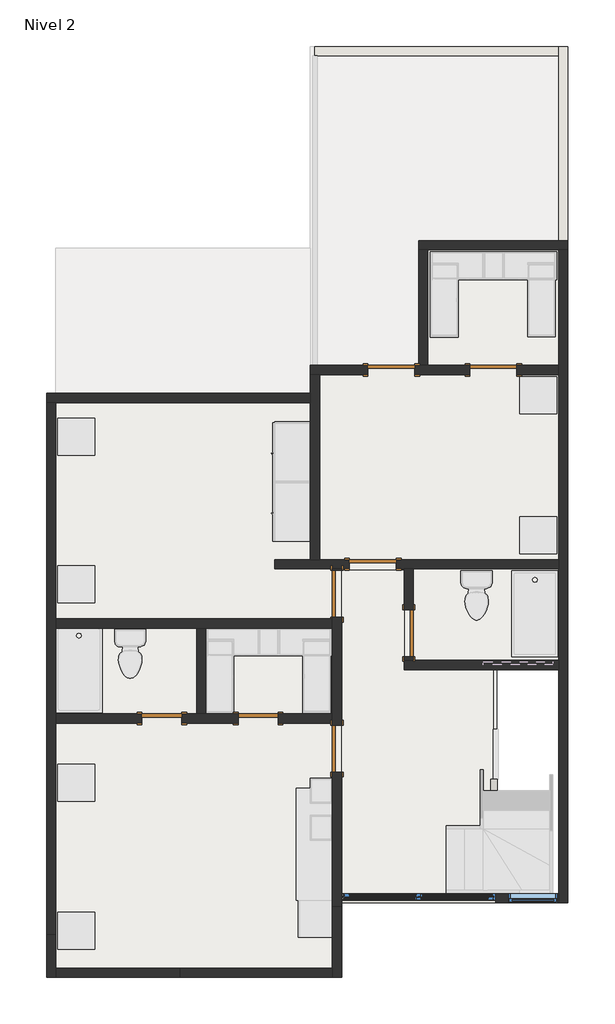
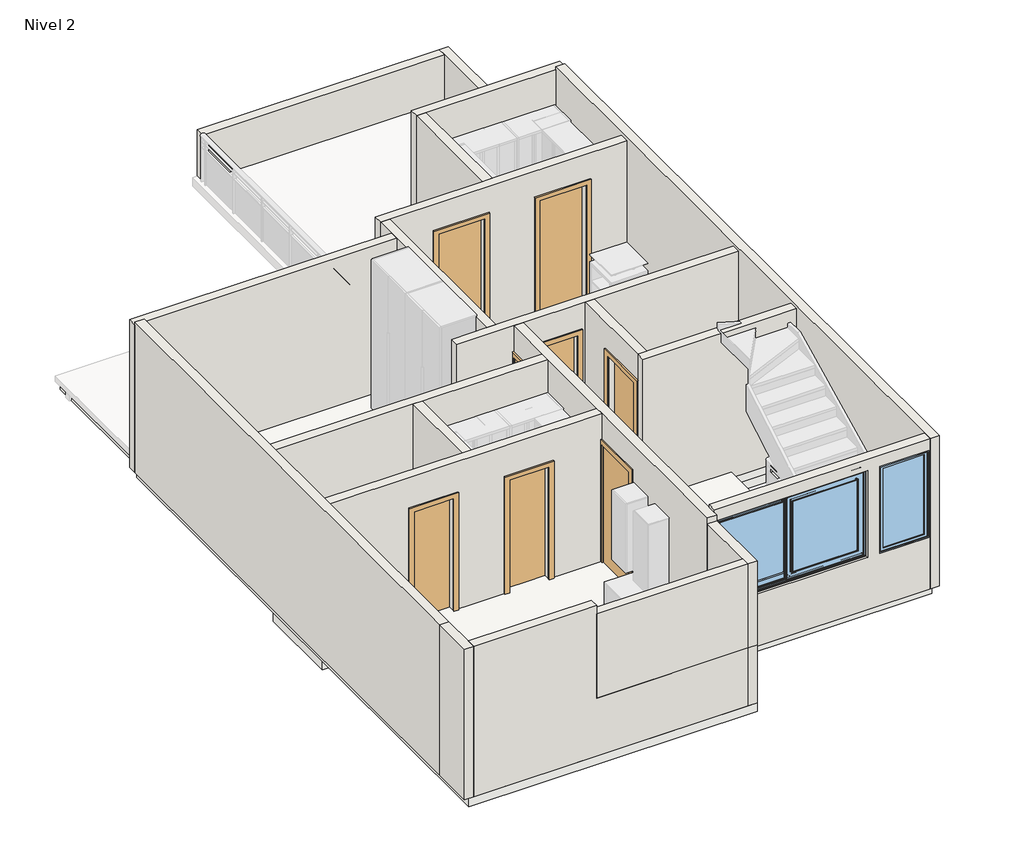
# One storey, part 1 of 2: 22 walls, 8 doors, 6 slabs, 2 windows.
"""IFC4 building model written with IfcOpenShell, lengths in millimetres."""

from ifc_helpers import new_model, si_unit, frame, origin, place, context, project, spatial, polyline, outline, extrude, faceted_brep, transform, mapped, element, save
from components import m_simple_a_ras_63_ancho_e79645bf, m_simple_a_ras_0762_x_2032mm_3f592dcc, m_simple_a_ras_0762_x_2032mm_ffa3ef71, window_2_5_x_1_5_7387efda, window_2_5_x_1_5_7a9b2e37, window_2_5_x_1_5_f0680f54, m_fijo_8_x_1_5_414f3f9b

model = new_model("IFC4")

# Units and contexts
model_context = context("Model", 3, world=origin())
ifc_project = project(units=[si_unit("LENGTHUNIT", "METRE", prefix="MILLI")], contexts=[model_context])

# Site, building, storey
site = spatial("IfcSite", under=ifc_project)
building = spatial("IfcBuilding", under=site)
storey = spatial("IfcBuildingStorey", under=building, Name="Nivel 2", Elevation=2800.0)

# Doors
placement = place(None, origin())
m_simple_a_ras_63_ancho_shape = m_simple_a_ras_63_ancho_e79645bf(model_context)
element("IfcDoor", 1, ObjectType="M_Simple-A ras : .63 ancho", at=placement, inside=storey, context=model_context, shape_type="MappedRepresentation", body=[
    mapped(m_simple_a_ras_63_ancho_shape, transform((-6467.0352198, 2255.2742772, 2800.0), x_axis=(-1.0, 0.0, 0.0), y_axis=(0.0, -1.0, 0.0), z_axis=(0.0, 0.0, 1.0))),
])
element("IfcDoor", 2, ObjectType="M_Simple-A ras : .63 ancho", at=placement, inside=storey, context=model_context, shape_type="MappedRepresentation", body=[
    mapped(m_simple_a_ras_63_ancho_shape, transform((-8024.5352198, 2255.2742772, 2800.0), x_axis=(-1.0, 0.0, 0.0), y_axis=(0.0, -1.0, 0.0), z_axis=(0.0, 0.0, 1.0))),
])
m_simple_a_ras_0762_x_2032mm_shape = m_simple_a_ras_0762_x_2032mm_3f592dcc(model_context)
element("IfcDoor", 3, ObjectType="M_Simple-A ras : 0762 x 2032mm", at=placement, inside=storey, context=model_context, shape_type="MappedRepresentation", body=[
    mapped(m_simple_a_ras_0762_x_2032mm_shape, transform((-5189.5352198, 4275.2742772, 2800.0), x_axis=(0.0, 1.0, 0.0), y_axis=(-1.0, 0.0, 0.0), z_axis=(0.0, 0.0, 1.0))),
])
element("IfcDoor", 4, ObjectType="M_Simple-A ras : 0762 x 2032mm", at=placement, inside=storey, context=model_context, shape_type="MappedRepresentation", body=[
    mapped(m_simple_a_ras_0762_x_2032mm_shape, transform((-5189.5352198, 1767.2742772, 2800.0), x_axis=(0.0, 1.0, 0.0), y_axis=(-1.0, 0.0, 0.0), z_axis=(0.0, 0.0, 1.0))),
])
element("IfcDoor", 5, ObjectType="M_Simple-A ras : 0762 x 2032mm", at=placement, inside=storey, context=model_context, shape_type="MappedRepresentation", body=[
    mapped(m_simple_a_ras_0762_x_2032mm_shape, transform((-4307.5352198, 7905.2742772, 2800.0), x_axis=(1.0, 0.0, 0.0), y_axis=(0.0, 1.0, 0.0), z_axis=(0.0, 0.0, 1.0))),
])
element("IfcDoor", 6, ObjectType="M_Simple-A ras : 0762 x 2032mm", at=placement, inside=storey, context=model_context, shape_type="MappedRepresentation", body=[
    mapped(m_simple_a_ras_0762_x_2032mm_shape, transform((-2654.5352198, 7905.2742772, 2800.0), x_axis=(1.0, 0.0, 0.0), y_axis=(0.0, 1.0, 0.0), z_axis=(0.0, 0.0, 1.0))),
])
m_simple_a_ras_0762_x_2032mm_2_shape = m_simple_a_ras_0762_x_2032mm_ffa3ef71(model_context)
element("IfcDoor", 7, ObjectType="M_Simple-A ras : 0762 x 2032mm", at=placement, inside=storey, context=model_context, shape_type="MappedRepresentation", body=[
    mapped(m_simple_a_ras_0762_x_2032mm_2_shape, transform((-4607.0352198, 4755.2742772, 2800.0), x_axis=(-1.0, 0.0, 0.0), y_axis=(0.0, -1.0, 0.0), z_axis=(0.0, 0.0, 1.0))),
])
element("IfcDoor", 8, ObjectType="M_Simple-A ras : 0762 x 2032mm", at=placement, inside=storey, context=model_context, shape_type="MappedRepresentation", body=[
    mapped(m_simple_a_ras_0762_x_2032mm_shape, transform((-4024.5352198, 3639.2742772, 2800.0), x_axis=(0.0, -1.0, 0.0), y_axis=(1.0, 0.0, 0.0), z_axis=(0.0, 0.0, 1.0))),
])

# Slabs
element("IfcSlab", 9, ObjectType="Genérico 150 mm", at=placement, inside=storey, context=model_context, shape_type="SweptSolid", body=[
    extrude(outline(polyline([(-5114.5352198, -1939.7257228), (-9819.5352198, -1939.7257228), (-9819.5352198, 7448.2742772), (-5619.5352198, 7448.2742772), (-5619.5352198, 7980.2742772), (-3864.5352198, 7980.2742772), (-3864.5352198, 10000.2742772), (-1519.5352198, 10000.2742772), (-1519.5352198, -654.7257228), (-5114.5352198, -654.7257228), (-5114.5352198, -1939.7257228)]), holes=[polyline([(-1594.5352198, 3075.2742772), (-2594.5352198, 3075.2742772), (-2594.5352198, -579.7257228), (-1594.5352198, -579.7257228), (-1594.5352198, 3075.2742772)]), polyline([(-5112.0352198, 4655.2742772), (-5112.0352198, -579.7257228), (-3414.2417154, -579.7257228), (-2694.5352198, -579.7257228), (-2694.5352198, 1270.2742772), (-2655.7536895, 1270.2742772), (-2655.7536895, 3050.2742772), (-4099.5352198, 3050.2742772), (-4099.5352198, 4655.2742772), (-5112.0352198, 4655.2742772)]), polyline([(-7464.5352198, 3720.2742772), (-9744.5352198, 3720.2742772), (-9744.5352198, 2330.2742772), (-7464.5352198, 2330.2742772), (-7464.5352198, 3720.2742772)]), polyline([(-1594.5352198, 4680.2742772), (-3949.5352198, 4680.2742772), (-3949.5352198, 3200.2742772), (-1594.5352198, 3200.2742772), (-1594.5352198, 4680.2742772)])]), frame((0.0, 0.0, 2650.0), z_axis=(0.0, 0.0, 1.0), x_axis=(1.0, 0.0, 0.0)), (0.0, 0.0, 1.0), 150.0),
])
element("IfcSlab", 10, ObjectType="polines", at=placement, inside=storey, context=model_context, shape_type="SweptSolid", body=[
    extrude(outline(polyline([(-8208.0352198, 7523.2742772), (-8208.0352198, 9805.2742772), (-8138.0352198, 9805.2742772), (-8138.0352198, 7523.2742772), (-8208.0352198, 7523.2742772)])), frame((0.0, 0.0, 2700.0), z_axis=(0.0, 0.0, 1.0), x_axis=(1.0, 0.0, 0.0)), (0.0, 0.0, 1.0), 100.0),
])
element("IfcSlab", 11, ObjectType="polines", at=placement, inside=storey, context=model_context, shape_type="SweptSolid", body=[
    extrude(outline(polyline([(-9208.0352198, 7523.2742772), (-9208.0352198, 9805.2742772), (-9138.0352198, 9805.2742772), (-9138.0352198, 7523.2742772), (-9208.0352198, 7523.2742772)])), frame((0.0, 0.0, 2700.0), z_axis=(0.0, 0.0, 1.0), x_axis=(1.0, 0.0, 0.0)), (0.0, 0.0, 1.0), 100.0),
])
element("IfcSlab", 12, ObjectType="polines", at=placement, inside=storey, context=model_context, shape_type="SweptSolid", body=[
    extrude(outline(polyline([(-9708.0352198, 7523.2742772), (-9708.0352198, 9805.2742772), (-9638.0352198, 9805.2742772), (-9638.0352198, 7523.2742772), (-9708.0352198, 7523.2742772)])), frame((0.0, 0.0, 2700.0), z_axis=(0.0, 0.0, 1.0), x_axis=(1.0, 0.0, 0.0)), (0.0, 0.0, 1.0), 100.0),
])
element("IfcSlab", 13, ObjectType="Genérico 150 mm", at=placement, inside=storey, context=model_context, shape_type="SweptSolid", body=[
    extrude(outline(polyline([(-5112.0352198, 4655.2742772), (-4099.5352198, 4655.2742772), (-4099.5352198, 3050.2742772), (-2655.7536895, 3050.2742772), (-2655.7536895, 1270.2742772), (-2694.5352198, 1270.2742772), (-2694.5352198, -575.7257228), (-5112.0352198, -575.7257228), (-5112.0352198, 4655.2742772)])), frame((0.0, 0.0, 2750.0), z_axis=(0.0, 0.0, 1.0), x_axis=(1.0, 0.0, 0.0)), (0.0, 0.0, 1.0), 150.0),
])
element("IfcSlab", 14, ObjectType="Genérico 150 mm", at=placement, inside=storey, context=model_context, shape_type="SweptSolid", body=[
    extrude(outline(polyline([(-7464.5352198, 3720.2742772), (-7464.5352198, 2330.2742772), (-9744.5352198, 2330.2742772), (-9744.5352198, 3720.2742772), (-7464.5352198, 3720.2742772)])), frame((0.0, 0.0, 2400.0), z_axis=(0.0, 0.0, 1.0), x_axis=(1.0, 0.0, 0.0)), (0.0, 0.0, 1.0), 150.0),
    extrude(outline(polyline([(-1594.5352198, 4680.2742772), (-1594.5352198, 3200.2742772), (-3949.5352198, 3200.2742772), (-3949.5352198, 4680.2742772), (-1594.5352198, 4680.2742772)])), frame((0.0, 0.0, 2400.0), z_axis=(0.0, 0.0, 1.0), x_axis=(1.0, 0.0, 0.0)), (0.0, 0.0, 1.0), 150.0),
])

# Walls
element("IfcWall", 15, ObjectType="Genérico - 15.00", at=placement, inside=storey, context=model_context, shape_type="Brep", body=[
    faceted_brep([(-1444.5352198, 10000.2742772, 5350.0), (-1444.5352198, 10000.2742772, 3700.0), (-1444.5352198, 10000.2742772, 2800.0), (-1594.5352198, 10000.2742772, 2800.0), (-3864.5352198, 10000.2742772, 2800.0), (-3864.5352198, 10000.2742772, 5350.0), (-1444.5352198, 9850.2742772, 2800.0), (-1444.5352198, 9850.2742772, 5350.0), (-3714.5352198, 9850.2742772, 5350.0), (-3864.5352198, 9850.2742772, 5350.0), (-3864.5352198, 9850.2742772, 2800.0), (-3714.5352198, 9850.2742772, 2800.0), (-1594.5352198, 9850.2742772, 2800.0)], [[[0, 1, 2, 3, 4, 5]], [[6, 7, 8, 9, 10, 11, 12]], [[4, 3, 2, 6, 12, 11, 10]], [[0, 5, 9, 8, 7]], [[5, 4, 10, 9]], [[0, 7, 6, 2, 1]]]),
])
element("IfcWall", 16, ObjectType="Genérico - 15.00", at=placement, inside=storey, context=model_context, shape_type="Brep", body=[
    faceted_brep([(-1594.5352198, 9850.2742772, 5400.0), (-1594.5352198, 9850.2742772, 2800.0), (-1594.5352198, 7980.2742772, 2800.0), (-1594.5352198, 7830.2742772, 2800.0), (-1594.5352198, 4830.2742772, 2800.0), (-1594.5352198, 4680.2742772, 2800.0), (-1594.5352198, 3200.2742772, 2800.0), (-1594.5352198, 3050.2742772, 2800.0), (-1594.5352198, -579.7257228, 2800.0), (-1594.5352198, -729.7257228, 2800.0), (-1594.5352198, -729.7257228, 5400.0), (-1594.5352198, -579.7257228, 5400.0), (-1444.5352198, 9850.2742772, 2800.0), (-1444.5352198, 9850.2742772, 5350.0), (-1444.5352198, 9850.2742772, 5400.0), (-1444.5352198, -729.7257228, 5400.0), (-1444.5352198, -729.7257228, 2800.0)], [[[0, 1, 2, 3, 4, 5, 6, 7, 8, 9, 10, 11]], [[12, 13, 14, 15, 16]], [[9, 8, 7, 6, 5, 4, 3, 2, 1, 12, 16]], [[0, 11, 10, 15, 14]], [[10, 9, 16, 15]], [[0, 14, 13, 12, 1]]]),
])
element("IfcWall", 17, ObjectType="Genérico - 15.00", at=placement, inside=storey, context=model_context, shape_type="SweptSolid", body=[
    extrude(outline(polyline([(-3864.5352198, 7980.2742772), (-3864.5352198, 9850.2742772), (-3714.5352198, 9850.2742772), (-3714.5352198, 7980.2742772), (-3864.5352198, 7980.2742772)])), frame((0.0, 0.0, 2800.0), z_axis=(0.0, 0.0, 1.0), x_axis=(1.0, 0.0, 0.0)), (0.0, 0.0, 1.0), 2550.0),
])
element("IfcWall", 18, ObjectType="Genérico - 15.00", at=placement, inside=storey, context=model_context, shape_type="Brep", body=[
    faceted_brep([(-1594.5352198, 7980.2742772, 2800.0), (-2273.5352198, 7980.2742772, 2800.0), (-2273.5352198, 7980.2742772, 4832.0), (-3035.5352198, 7980.2742772, 4832.0), (-3035.5352198, 7980.2742772, 2800.0), (-3714.5352198, 7980.2742772, 2800.0), (-3864.5352198, 7980.2742772, 2800.0), (-3926.5352198, 7980.2742772, 2800.0), (-3926.5352198, 7980.2742772, 4832.0), (-4688.5352198, 7980.2742772, 4832.0), (-4688.5352198, 7980.2742772, 2800.0), (-5619.5352198, 7980.2742772, 2800.0), (-5619.5352198, 7980.2742772, 5350.0), (-3864.5352198, 7980.2742772, 5350.0), (-3714.5352198, 7980.2742772, 5350.0), (-1594.5352198, 7980.2742772, 5350.0), (-2273.5352198, 7830.2742772, 4832.0), (-2273.5352198, 7830.2742772, 2800.0), (-1594.5352198, 7830.2742772, 2800.0), (-1594.5352198, 7830.2742772, 5350.0), (-5469.5352198, 7830.2742772, 5350.0), (-5619.5352198, 7830.2742772, 5350.0), (-5619.5352198, 7830.2742772, 2800.0), (-5469.5352198, 7830.2742772, 2800.0), (-4688.5352198, 7830.2742772, 2800.0), (-4688.5352198, 7830.2742772, 4832.0), (-3926.5352198, 7830.2742772, 4832.0), (-3926.5352198, 7830.2742772, 2800.0), (-3035.5352198, 7830.2742772, 2800.0), (-3035.5352198, 7830.2742772, 4832.0)], [[[0, 1, 2, 3, 4, 5, 6, 7, 8, 9, 10, 11, 12, 13, 14, 15]], [[16, 17, 18, 19, 20, 21, 22, 23, 24, 25, 26, 27, 28, 29]], [[24, 23, 22, 11, 10]], [[28, 27, 7, 6, 5, 4]], [[18, 17, 1, 0]], [[15, 14, 13, 12, 21, 20, 19]], [[12, 11, 22, 21]], [[0, 15, 19, 18]], [[8, 7, 27, 26]], [[9, 8, 26, 25]], [[10, 9, 25, 24]], [[2, 1, 17, 16]], [[3, 2, 16, 29]], [[4, 3, 29, 28]]]),
])
element("IfcWall", 19, ObjectType="Genérico - 15.00", at=placement, inside=storey, context=model_context, shape_type="Brep", body=[
    faceted_brep([(-5619.5352198, 7830.2742772, 2800.0), (-5619.5352198, 7523.2742772, 2800.0), (-5619.5352198, 7373.2742772, 2800.0), (-5619.5352198, 4830.2742772, 2800.0), (-5619.5352198, 4830.2742772, 5350.0), (-5619.5352198, 7373.2742772, 5350.0), (-5619.5352198, 7523.2742772, 5350.0), (-5619.5352198, 7830.2742772, 5350.0), (-5469.5352198, 7830.2742772, 2800.0), (-5469.5352198, 7830.2742772, 5350.0), (-5469.5352198, 4830.2742772, 5350.0), (-5469.5352198, 4830.2742772, 2800.0)], [[[0, 1, 2, 3, 4, 5, 6, 7]], [[8, 9, 10, 11]], [[3, 2, 1, 0, 8, 11]], [[7, 6, 5, 4, 10, 9]], [[0, 7, 9, 8]], [[4, 3, 11, 10]]]),
])
element("IfcWall", 20, ObjectType="Genérico - 15.00", at=placement, inside=storey, context=model_context, shape_type="Brep", body=[
    faceted_brep([(-5619.5352198, 7523.2742772, 2800.0), (-9894.5352198, 7523.2742772, 2800.0), (-9894.5352198, 7523.2742772, 5350.0), (-5619.5352198, 7523.2742772, 5350.0), (-5619.5352198, 7373.2742772, 2800.0), (-5619.5352198, 7373.2742772, 5350.0), (-9894.5352198, 7373.2742772, 5350.0), (-9894.5352198, 7373.2742772, 2800.0), (-9744.5352198, 7373.2742772, 2800.0)], [[[0, 1, 2, 3]], [[4, 5, 6, 7, 8]], [[1, 0, 4, 8, 7]], [[3, 2, 6, 5]], [[0, 3, 5, 4]], [[2, 1, 7, 6]]]),
])
element("IfcWall", 21, ObjectType="Genérico - 15.00", at=placement, inside=storey, context=model_context, shape_type="Brep", body=[
    faceted_brep([(-9894.5352198, 7373.2742772, 2800.0), (-9894.5352198, -1244.7257228, 2800.0), (-9894.5352198, -1244.7257228, 5400.0), (-9894.5352198, 7373.2742772, 5400.0), (-9894.5352198, 7373.2742772, 5350.0), (-9744.5352198, 7373.2742772, 2800.0), (-9744.5352198, 7373.2742772, 5400.0), (-9744.5352198, -1244.7257228, 5400.0), (-9744.5352198, -1244.7257228, 2800.0), (-9744.5352198, 2180.2742772, 2800.0), (-9744.5352198, 2330.2742772, 2800.0), (-9744.5352198, 3720.2742772, 2800.0), (-9744.5352198, 3870.2742772, 2800.0)], [[[0, 1, 2, 3, 4]], [[5, 6, 7, 8, 9, 10, 11, 12]], [[1, 0, 5, 12, 11, 10, 9, 8]], [[2, 1, 8, 7]], [[3, 2, 7, 6]], [[0, 4, 3, 6, 5]]]),
])
element("IfcWall", 22, ObjectType="Genérico - 15.00", at=placement, inside=storey, context=model_context, shape_type="Brep", body=[
    faceted_brep([(-9744.5352198, 3720.2742772, 2800.0), (-7464.5352198, 3720.2742772, 2800.0), (-7314.5352198, 3720.2742772, 2800.0), (-5264.5352198, 3720.2742772, 2800.0), (-5264.5352198, 3720.2742772, 5350.0), (-7314.5352198, 3720.2742772, 5350.0), (-7464.5352198, 3720.2742772, 5350.0), (-9744.5352198, 3720.2742772, 5350.0), (-9744.5352198, 3870.2742772, 2800.0), (-9744.5352198, 3870.2742772, 5350.0), (-5264.5352198, 3870.2742772, 5350.0), (-5264.5352198, 3870.2742772, 2800.0)], [[[0, 1, 2, 3, 4, 5, 6, 7]], [[8, 9, 10, 11]], [[3, 2, 1, 0, 8, 11]], [[7, 6, 5, 4, 10, 9]], [[0, 7, 9, 8]], [[4, 3, 11, 10]]]),
])
element("IfcWall", 23, ObjectType="Genérico - 15.00", at=placement, inside=storey, context=model_context, shape_type="Brep", body=[
    faceted_brep([(-4988.0352198, 4830.2742772, 4832.0), (-4988.0352198, 4830.2742772, 2800.0), (-5469.5352198, 4830.2742772, 2800.0), (-5619.5352198, 4830.2742772, 2800.0), (-6194.5352198, 4830.2742772, 2800.0), (-6194.5352198, 4830.2742772, 5350.0), (-5619.5352198, 4830.2742772, 5350.0), (-5469.5352198, 4830.2742772, 5350.0), (-1594.5352198, 4830.2742772, 5350.0), (-1594.5352198, 4830.2742772, 2800.0), (-4226.0352198, 4830.2742772, 2800.0), (-4226.0352198, 4830.2742772, 4832.0), (-6194.5352198, 4680.2742772, 2800.0), (-5264.5352198, 4680.2742772, 2800.0), (-5114.5352198, 4680.2742772, 2800.0), (-4988.0352198, 4680.2742772, 2800.0), (-4988.0352198, 4680.2742772, 4832.0), (-4226.0352198, 4680.2742772, 4832.0), (-4226.0352198, 4680.2742772, 2800.0), (-4099.5352198, 4680.2742772, 2800.0), (-3949.5352198, 4680.2742772, 2800.0), (-1594.5352198, 4680.2742772, 2800.0), (-1594.5352198, 4680.2742772, 5350.0), (-3949.5352198, 4680.2742772, 5350.0), (-4099.5352198, 4680.2742772, 5350.0), (-5114.5352198, 4680.2742772, 5350.0), (-5264.5352198, 4680.2742772, 5350.0), (-6194.5352198, 4680.2742772, 5350.0)], [[[0, 1, 2, 3, 4, 5, 6, 7, 8, 9, 10, 11]], [[12, 13, 14, 15, 16, 17, 18, 19, 20, 21, 22, 23, 24, 25, 26, 27]], [[10, 9, 21, 20, 19, 18]], [[4, 3, 2, 1, 15, 14, 13, 12]], [[5, 4, 12, 27]], [[8, 7, 6, 5, 27, 26, 25, 24, 23, 22]], [[9, 8, 22, 21]], [[16, 15, 1, 0]], [[17, 16, 0, 11]], [[18, 17, 11, 10]]]),
])
element("IfcWall", 24, ObjectType="Genérico - 15.00", at=placement, inside=storey, context=model_context, shape_type="Brep", body=[
    faceted_brep([(-5114.5352198, 2148.2742772, 4832.0), (-5114.5352198, 2148.2742772, 2800.0), (-5114.5352198, 3894.2742772, 2800.0), (-5114.5352198, 3894.2742772, 4832.0), (-5114.5352198, 4656.2742772, 4832.0), (-5114.5352198, 4656.2742772, 2800.0), (-5114.5352198, 4680.2742772, 2800.0), (-5114.5352198, 4680.2742772, 5350.0), (-5114.5352198, -794.7257228, 5350.0), (-5114.5352198, -794.7257228, 3800.0), (-5114.5352198, -1939.7257228, 3800.0), (-5114.5352198, -1939.7257228, 2800.0), (-5114.5352198, -729.7257228, 2800.0), (-5114.5352198, -579.7257228, 2800.0), (-5114.5352198, 1386.2742772, 2800.0), (-5114.5352198, 1386.2742772, 4832.0), (-5264.5352198, 3894.2742772, 2800.0), (-5264.5352198, 3870.2742772, 2800.0), (-5264.5352198, 3720.2742772, 2800.0), (-5264.5352198, 2330.2742772, 2800.0), (-5264.5352198, 2180.2742772, 2800.0), (-5264.5352198, 2148.2742772, 2800.0), (-5264.5352198, 2148.2742772, 4832.0), (-5264.5352198, 1386.2742772, 4832.0), (-5264.5352198, 1386.2742772, 2800.0), (-5264.5352198, -1789.7257228, 2800.0), (-5264.5352198, -1939.7257228, 2800.0), (-5264.5352198, -1939.7257228, 3800.0), (-5264.5352198, -1789.7257228, 3800.0), (-5264.5352198, -794.7257228, 3800.0), (-5264.5352198, -794.7257228, 5350.0), (-5264.5352198, 2180.2742772, 5350.0), (-5264.5352198, 2330.2742772, 5350.0), (-5264.5352198, 3720.2742772, 5350.0), (-5264.5352198, 3870.2742772, 5350.0), (-5264.5352198, 4680.2742772, 5350.0), (-5264.5352198, 4680.2742772, 2800.0), (-5264.5352198, 4656.2742772, 2800.0), (-5264.5352198, 4656.2742772, 4832.0), (-5264.5352198, 3894.2742772, 4832.0)], [[[0, 1, 2, 3, 4, 5, 6, 7, 8, 9, 10, 11, 12, 13, 14, 15]], [[16, 17, 18, 19, 20, 21, 22, 23, 24, 25, 26, 27, 28, 29, 30, 31, 32, 33, 34, 35, 36, 37, 38, 39]], [[6, 5, 37, 36]], [[2, 1, 21, 20, 19, 18, 17, 16]], [[14, 13, 12, 11, 26, 25, 24]], [[8, 7, 35, 34, 33, 32, 31, 30]], [[9, 8, 30, 29]], [[10, 9, 29, 28, 27]], [[11, 10, 27, 26]], [[7, 6, 36, 35]], [[38, 37, 5, 4]], [[39, 38, 4, 3]], [[16, 39, 3, 2]], [[22, 21, 1, 0]], [[23, 22, 0, 15]], [[24, 23, 15, 14]]]),
])
element("IfcWall", 25, ObjectType="Genérico - 15.00 vidrio", at=placement, inside=storey, context=model_context, shape_type="Brep", body=[
    faceted_brep([(-5264.5352198, -794.7257228, 3800.0), (-5264.5352198, -1789.7257228, 3800.0), (-5264.5352198, -1939.7257228, 3800.0), (-5264.5352198, -1939.7257228, 5250.0), (-5264.5352198, -1789.7257228, 5250.0), (-5264.5352198, -794.7257228, 5250.0), (-5114.5352198, -794.7257228, 3800.0), (-5114.5352198, -794.7257228, 5250.0), (-5114.5352198, -1939.7257228, 5250.0), (-5114.5352198, -1939.7257228, 3800.0)], [[[0, 1, 2, 3, 4, 5]], [[6, 7, 8, 9]], [[2, 1, 0, 6, 9]], [[5, 4, 3, 8, 7]], [[0, 5, 7, 6]], [[3, 2, 9, 8]]]),
])
element("IfcWall", 26, ObjectType="Genérico - 15.00 vidrio", at=placement, inside=storey, context=model_context, shape_type="SweptSolid", body=[
    extrude(outline(polyline([(-7734.5352198, -1789.7257228), (-5264.5352198, -1789.7257228), (-5264.5352198, -1939.7257228), (-7734.5352198, -1939.7257228), (-7734.5352198, -1789.7257228)])), frame((0.0, 0.0, 3800.0), z_axis=(0.0, 0.0, 1.0), x_axis=(1.0, 0.0, 0.0)), (0.0, 0.0, 1.0), 1450.0),
])
element("IfcWall", 27, ObjectType="Genérico - 150 mm 2", at=placement, inside=storey, context=model_context, shape_type="Brep", body=[
    faceted_brep([(-9894.5352198, -1244.7257228, 2800.0), (-9894.5352198, -1939.7257228, 2800.0), (-9894.5352198, -1939.7257228, 5400.0), (-9894.5352198, -1244.7257228, 5400.0), (-9744.5352198, -1244.7257228, 2800.0), (-9744.5352198, -1244.7257228, 5400.0), (-9744.5352198, -1789.7257228, 5400.0), (-9744.5352198, -1939.7257228, 5400.0), (-9744.5352198, -1939.7257228, 2800.0), (-9744.5352198, -1789.7257228, 2800.0)], [[[0, 1, 2, 3]], [[4, 5, 6, 7, 8, 9]], [[1, 0, 4, 9, 8]], [[3, 2, 7, 6, 5]], [[0, 3, 5, 4]], [[2, 1, 8, 7]]]),
])
element("IfcWall", 28, ObjectType="Genérico - 150 mm 2", at=placement, inside=storey, context=model_context, shape_type="SweptSolid", body=[
    extrude(outline(polyline([(2800.0, -9744.5352198), (2800.0, -5264.5352198), (3800.0, -5264.5352198), (3800.0, -7734.5352198), (5400.0, -7734.5352198), (5400.0, -9744.5352198), (2800.0, -9744.5352198)])), frame((0.0, -1939.7257228, 0.0), z_axis=(0.0, 1.0, 0.0), x_axis=(0.0, 0.0, 1.0)), (0.0, 0.0, 1.0), 150.0),
])
element("IfcWall", 29, ObjectType="Genérico - 150 mm 2", at=placement, inside=storey, context=model_context, shape_type="Brep", body=[
    faceted_brep([(-9744.5352198, 2180.2742772, 2800.0), (-8349.5352198, 2180.2742772, 2800.0), (-8349.5352198, 2180.2742772, 4750.0), (-7699.5352198, 2180.2742772, 4750.0), (-7699.5352198, 2180.2742772, 2800.0), (-6792.0352198, 2180.2742772, 2800.0), (-6792.0352198, 2180.2742772, 4750.0), (-6142.0352198, 2180.2742772, 4750.0), (-6142.0352198, 2180.2742772, 2800.0), (-5264.5352198, 2180.2742772, 2800.0), (-5264.5352198, 2180.2742772, 5350.0), (-9744.5352198, 2180.2742772, 5350.0), (-8349.5352198, 2330.2742772, 4750.0), (-8349.5352198, 2330.2742772, 2800.0), (-9744.5352198, 2330.2742772, 2800.0), (-9744.5352198, 2330.2742772, 5350.0), (-7464.5352198, 2330.2742772, 5350.0), (-7314.5352198, 2330.2742772, 5350.0), (-5264.5352198, 2330.2742772, 5350.0), (-5264.5352198, 2330.2742772, 2800.0), (-6142.0352198, 2330.2742772, 2800.0), (-6142.0352198, 2330.2742772, 4750.0), (-6792.0352198, 2330.2742772, 4750.0), (-6792.0352198, 2330.2742772, 2800.0), (-7314.5352198, 2330.2742772, 2800.0), (-7464.5352198, 2330.2742772, 2800.0), (-7699.5352198, 2330.2742772, 2800.0), (-7699.5352198, 2330.2742772, 4750.0)], [[[0, 1, 2, 3, 4, 5, 6, 7, 8, 9, 10, 11]], [[12, 13, 14, 15, 16, 17, 18, 19, 20, 21, 22, 23, 24, 25, 26, 27]], [[20, 19, 9, 8]], [[14, 13, 1, 0]], [[26, 25, 24, 23, 5, 4]], [[11, 10, 18, 17, 16, 15]], [[10, 9, 19, 18]], [[0, 11, 15, 14]], [[6, 5, 23, 22]], [[7, 6, 22, 21]], [[8, 7, 21, 20]], [[2, 1, 13, 12]], [[3, 2, 12, 27]], [[4, 3, 27, 26]]]),
])
element("IfcWall", 30, ObjectType="Genérico - 150 mm 2", at=placement, inside=storey, context=model_context, shape_type="Brep", body=[
    faceted_brep([(-1594.5352198, 3200.2742772, 2800.0), (-3949.5352198, 3200.2742772, 2800.0), (-4099.5352198, 3200.2742772, 2800.0), (-4099.5352198, 3200.2742772, 5350.0), (-3949.5352198, 3200.2742772, 5350.0), (-1594.5352198, 3200.2742772, 5350.0), (-1594.5352198, 3050.2742772, 2800.0), (-1594.5352198, 3050.2742772, 5350.0), (-4099.5352198, 3050.2742772, 5350.0), (-4099.5352198, 3050.2742772, 2800.0)], [[[0, 1, 2, 3, 4, 5]], [[6, 7, 8, 9]], [[2, 1, 0, 6, 9]], [[5, 4, 3, 8, 7]], [[0, 5, 7, 6]], [[3, 2, 9, 8]]]),
])
element("IfcWall", 31, ObjectType="Genérico - 150 mm 2", at=placement, inside=storey, context=model_context, shape_type="SweptSolid", body=[
    extrude(outline(polyline([(3258.2742772, 4832.0), (3258.2742772, 2800.0), (3200.2742772, 2800.0), (3200.2742772, 5350.0), (4680.2742772, 5350.0), (4680.2742772, 2800.0), (4020.2742772, 2800.0), (4020.2742772, 4832.0), (3258.2742772, 4832.0)])), frame((-4099.5352198, 0.0, 0.0), z_axis=(1.0, 0.0, 0.0), x_axis=(0.0, 1.0, 0.0)), (0.0, 0.0, 1.0), 150.0),
])
element("IfcWall", 32, ObjectType="Genérico - 150 mm 2", at=placement, inside=storey, context=model_context, shape_type="SweptSolid", body=[
    extrude(outline(polyline([(-7464.5352198, 2330.2742772), (-7464.5352198, 3720.2742772), (-7314.5352198, 3720.2742772), (-7314.5352198, 2330.2742772), (-7464.5352198, 2330.2742772)])), frame((0.0, 0.0, 2800.0), z_axis=(0.0, 0.0, 1.0), x_axis=(1.0, 0.0, 0.0)), (0.0, 0.0, 1.0), 2550.0),
])
element("IfcWall", 33, ObjectType="Genérico - 150 mm 2", at=placement, inside=storey, context=model_context, shape_type="SweptSolid", body=[
    extrude(outline(polyline([(2800.0, -5114.5352198), (2800.0, -1594.5352198), (5400.0, -1594.5352198), (5400.0, -5114.5352198), (5200.0, -5114.5352198), (5200.0, -2614.5352198), (3700.0, -2614.5352198), (3700.0, -5114.5352198), (2800.0, -5114.5352198)]), holes=[polyline([(5200.0, -2414.5352198), (5200.0, -1614.5352198), (3700.0, -1614.5352198), (3700.0, -2414.5352198), (5200.0, -2414.5352198)])]), frame((0.0, -729.7257228, 0.0), z_axis=(0.0, 1.0, 0.0), x_axis=(0.0, 0.0, 1.0)), (0.0, 0.0, 1.0), 150.0),
])
element("IfcWall", 34, ObjectType="Genérico - 150 mm 2", at=placement, inside=storey, context=model_context, shape_type="Brep", body=[
    faceted_brep([(-1444.5352198, 10000.2742772, 2800.0), (-1444.5352198, 13145.2742772, 2800.0), (-1444.5352198, 13145.2742772, 3700.0), (-1444.5352198, 10000.2742772, 3700.0), (-1594.5352198, 10000.2742772, 2800.0), (-1594.5352198, 10000.2742772, 3700.0), (-1594.5352198, 12995.2742772, 3700.0), (-1594.5352198, 13145.2742772, 3700.0), (-1594.5352198, 13145.2742772, 2800.0), (-1594.5352198, 12995.2742772, 2800.0)], [[[0, 1, 2, 3]], [[4, 5, 6, 7, 8, 9]], [[1, 0, 4, 9, 8]], [[3, 2, 7, 6, 5]], [[0, 3, 5, 4]], [[2, 1, 8, 7]]]),
])
element("IfcWall", 35, ObjectType="Genérico - 150 mm 2", at=placement, inside=storey, context=model_context, shape_type="SweptSolid", body=[
    extrude(outline(polyline([(-5544.5352198, 13145.2742772), (-1594.5352198, 13145.2742772), (-1594.5352198, 12995.2742772), (-5544.5352198, 12995.2742772), (-5544.5352198, 13145.2742772)])), frame((0.0, 0.0, 2800.0), z_axis=(0.0, 0.0, 1.0), x_axis=(1.0, 0.0, 0.0)), (0.0, 0.0, 1.0), 900.0),
])
element("IfcWall", 36, ObjectType="Genérico - 10.00", at=placement, inside=storey, context=model_context, shape_type="SweptSolid", body=[
    extrude(outline(polyline([(470.2742772, 2800.0), (470.2742772, 3274.7624947), (1270.2742772, 3827.9254647), (1270.2742772, 2800.0), (470.2742772, 2800.0)])), frame((-2694.5352198, 0.0, 0.0), z_axis=(1.0, 0.0, 0.0), x_axis=(0.0, 1.0, 0.0)), (0.0, 0.0, 1.0), 100.0),
])

# Windows
window_2_5_x_1_5_shape = window_2_5_x_1_5_7387efda(model_context)
window_2_5_x_1_5_2_shape = window_2_5_x_1_5_7a9b2e37(model_context)
window_2_5_x_1_5_3_shape = window_2_5_x_1_5_f0680f54(model_context)
element("IfcWindow", 37, ObjectType="Windows_Opening-Slide_Strugal_S110P2_One-Leaf-Fixed-Leaf_INT (2) : 2.5 x 1.5", at=placement, inside=storey, context=model_context, shape_type="MappedRepresentation", body=[
    mapped(window_2_5_x_1_5_shape, transform((-3864.5352198, -654.7257228, 3700.0), x_axis=(-1.0, 0.0, 0.0), y_axis=(0.0, -1.0, 0.0), z_axis=(0.0, 0.0, 1.0))),
    mapped(window_2_5_x_1_5_2_shape, transform((-3864.5352198, -654.7257228, 3700.0), x_axis=(-1.0, 0.0, 0.0), y_axis=(0.0, -1.0, 0.0), z_axis=(0.0, 0.0, 1.0))),
    mapped(window_2_5_x_1_5_3_shape, transform((-3864.5352198, -654.7257228, 3700.0), x_axis=(-1.0, 0.0, 0.0), y_axis=(0.0, -1.0, 0.0), z_axis=(0.0, 0.0, 1.0))),
])
m_fijo_8_x_1_5_shape = m_fijo_8_x_1_5_414f3f9b(model_context)
element("IfcWindow", 38, ObjectType="M_Fijo : .8 x 1.5", at=placement, inside=storey, context=model_context, shape_type="MappedRepresentation", body=[
    mapped(m_fijo_8_x_1_5_shape, transform((-2014.5352198, -641.7257228, 2785.0), x_axis=(-1.0, 0.0, 0.0), y_axis=(0.0, -1.0, 0.0), z_axis=(0.0, 0.0, 1.0))),
])

save(model, "model.ifc")
